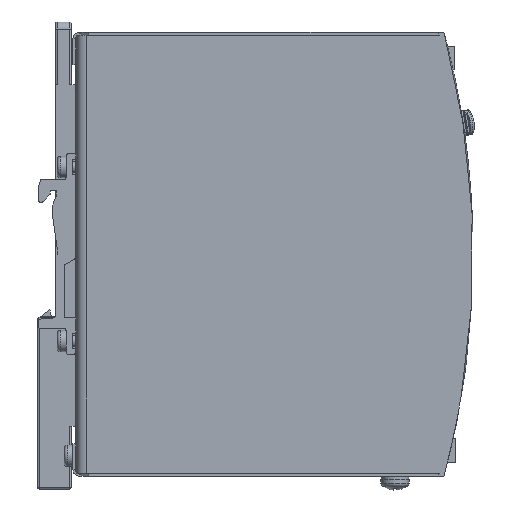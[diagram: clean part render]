
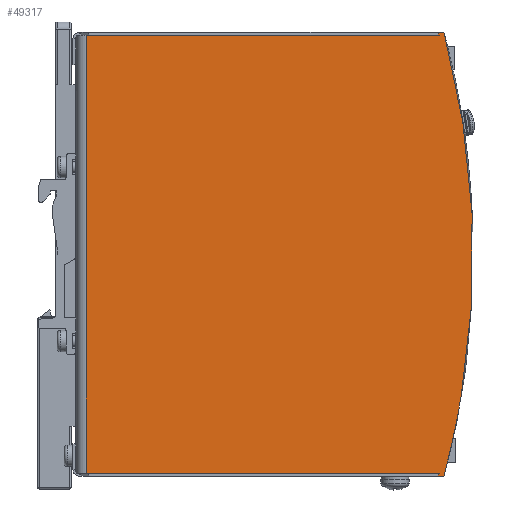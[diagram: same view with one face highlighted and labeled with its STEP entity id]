
A CAD part, front view. The second image highlights one B-rep face of the part: STEP entity #49317.
In plain terms, the highlighted planar face has unit normal (0, -1, 0).
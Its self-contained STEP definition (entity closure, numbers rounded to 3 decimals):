
#865=FACE_BOUND('',#8371,.T.);
#866=FACE_BOUND('',#8372,.T.);
#3120=PLANE('',#52205);
#5380=FACE_OUTER_BOUND('',#8370,.T.);
#8370=EDGE_LOOP('',(#44137,#44138,#44139,#44140,#44141,#44142,#44143,#44144,
#44145,#44146,#44147,#44148));
#8371=EDGE_LOOP('',(#44149,#44150));
#8372=EDGE_LOOP('',(#44151,#44152));
#8645=CIRCLE('',#49520,241.025);
#8808=CIRCLE('',#49823,241.);
#9023=CIRCLE('',#50668,1.);
#9026=CIRCLE('',#50673,1.);
#9463=LINE('',#66803,#15040);
#10020=LINE('',#73073,#15597);
#10590=LINE('',#74216,#16167);
#11953=LINE('',#77405,#17530);
#14158=LINE('',#81825,#19735);
#14726=LINE('',#83478,#20303);
#14727=LINE('',#83480,#20304);
#14728=LINE('',#83481,#20305);
#14729=LINE('',#83484,#20306);
#14730=LINE('',#83487,#20307);
#15040=VECTOR('',#52863,10.);
#15597=VECTOR('',#54392,10.);
#16167=VECTOR('',#54970,10.);
#17530=VECTOR('',#57299,10.);
#19735=VECTOR('',#61728,10.);
#20303=VECTOR('',#63256,10.);
#20304=VECTOR('',#63257,10.);
#20305=VECTOR('',#63258,10.);
#20306=VECTOR('',#63259,10.);
#20307=VECTOR('',#63260,10.);
#20519=VERTEX_POINT('',#64044);
#20520=VERTEX_POINT('',#64046);
#20858=VERTEX_POINT('',#66802);
#21107=VERTEX_POINT('',#69888);
#21362=VERTEX_POINT('',#73072);
#21931=VERTEX_POINT('',#74214);
#23100=VERTEX_POINT('',#77404);
#23156=VERTEX_POINT('',#77620);
#23158=VERTEX_POINT('',#77623);
#23160=VERTEX_POINT('',#77631);
#24728=VERTEX_POINT('',#83477);
#24729=VERTEX_POINT('',#83479);
#24730=VERTEX_POINT('',#83482);
#24731=VERTEX_POINT('',#83483);
#24732=VERTEX_POINT('',#83485);
#24733=VERTEX_POINT('',#83486);
#24979=EDGE_CURVE('',#20519,#20520,#8645,.T.);
#25320=EDGE_CURVE('',#20858,#20520,#9463,.T.);
#25740=EDGE_CURVE('',#20858,#21107,#8808,.T.);
#26228=EDGE_CURVE('',#21362,#21107,#10020,.T.);
#26800=EDGE_CURVE('',#21931,#20519,#10590,.T.);
#28302=EDGE_CURVE('',#23100,#21362,#11953,.T.);
#28413=EDGE_CURVE('',#23156,#23158,#9023,.T.);
#28420=EDGE_CURVE('',#23100,#23160,#9026,.T.);
#30517=EDGE_CURVE('',#23158,#21931,#14158,.T.);
#31305=EDGE_CURVE('',#23156,#24728,#14726,.T.);
#31306=EDGE_CURVE('',#24729,#24728,#14727,.T.);
#31307=EDGE_CURVE('',#24729,#23160,#14728,.T.);
#31308=EDGE_CURVE('',#24730,#24731,#14729,.T.);
#31309=EDGE_CURVE('',#24732,#24733,#14730,.T.);
#44137=ORIENTED_EDGE('',*,*,#26228,.T.);
#44138=ORIENTED_EDGE('',*,*,#25740,.F.);
#44139=ORIENTED_EDGE('',*,*,#25320,.T.);
#44140=ORIENTED_EDGE('',*,*,#24979,.F.);
#44141=ORIENTED_EDGE('',*,*,#26800,.F.);
#44142=ORIENTED_EDGE('',*,*,#30517,.F.);
#44143=ORIENTED_EDGE('',*,*,#28413,.F.);
#44144=ORIENTED_EDGE('',*,*,#31305,.T.);
#44145=ORIENTED_EDGE('',*,*,#31306,.F.);
#44146=ORIENTED_EDGE('',*,*,#31307,.T.);
#44147=ORIENTED_EDGE('',*,*,#28420,.F.);
#44148=ORIENTED_EDGE('',*,*,#28302,.T.);
#44149=ORIENTED_EDGE('',*,*,#31308,.F.);
#44150=ORIENTED_EDGE('',*,*,#31308,.T.);
#44151=ORIENTED_EDGE('',*,*,#31309,.F.);
#44152=ORIENTED_EDGE('',*,*,#31309,.T.);
#49317=ADVANCED_FACE('',(#5380,#865,#866),#3120,.T.);
#49520=AXIS2_PLACEMENT_3D('',#64047,#52518,#52519);
#49823=AXIS2_PLACEMENT_3D('',#69889,#53487,#53488);
#50668=AXIS2_PLACEMENT_3D('',#77624,#57514,#57515);
#50673=AXIS2_PLACEMENT_3D('',#77635,#57528,#57529);
#52205=AXIS2_PLACEMENT_3D('',#83476,#63254,#63255);
#52518=DIRECTION('center_axis',(0.,1.,0.));
#52519=DIRECTION('ref_axis',(0.967,0.,0.254));
#52863=DIRECTION('',(0.986,0.,-0.165));
#53487=DIRECTION('center_axis',(0.,1.,0.));
#53488=DIRECTION('ref_axis',(0.966,0.,0.257));
#54392=DIRECTION('',(1.,0.,0.));
#54970=DIRECTION('',(1.,0.,0.));
#57299=DIRECTION('',(0.,0.,-1.));
#57514=DIRECTION('center_axis',(0.,-1.,0.));
#57515=DIRECTION('ref_axis',(0.968,0.,0.252));
#57528=DIRECTION('center_axis',(0.,-1.,0.));
#57529=DIRECTION('ref_axis',(0.,0.,
-1.));
#61728=DIRECTION('',(0.,0.,1.));
#63254=DIRECTION('center_axis',(0.,-1.,0.));
#63255=DIRECTION('ref_axis',(1.,0.,0.));
#63256=DIRECTION('',(-1.,0.,0.));
#63257=DIRECTION('',(0.,0.,1.));
#63258=DIRECTION('',(1.,0.,0.));
#63259=DIRECTION('',(0.968,0.,-0.252));
#63260=DIRECTION('',(0.968,0.,0.252));
#64044=CARTESIAN_POINT('',(101.414,-21.,123.15));
#64046=CARTESIAN_POINT('',(106.213,-21.,21.329));
#64047=CARTESIAN_POINT('Origin',(-131.5,-21.,61.15));
#66802=CARTESIAN_POINT('',(106.188,-21.,21.333));
#66803=CARTESIAN_POINT('',(106.188,-21.,21.333));
#69888=CARTESIAN_POINT('',(101.388,-21.,-0.85));
#69889=CARTESIAN_POINT('Origin',(-131.5,-21.,61.15));
#73072=CARTESIAN_POINT('',(99.781,-21.,-0.85));
#73073=CARTESIAN_POINT('',(163.152,-21.,-0.85));
#74214=CARTESIAN_POINT('',(99.781,-21.,123.15));
#74216=CARTESIAN_POINT('',(101.13,-21.,123.15));
#77404=CARTESIAN_POINT('',(99.781,-21.,-0.1));
#77405=CARTESIAN_POINT('',(99.781,-21.,89.9));
#77620=CARTESIAN_POINT('',(100.217,-21.,122.3));
#77623=CARTESIAN_POINT('',(99.781,-21.,122.4));
#77624=CARTESIAN_POINT('Origin',(99.781,-21.,121.4));
#77631=CARTESIAN_POINT('',(100.217,-21.,0.));
#77635=CARTESIAN_POINT('Origin',(99.781,-21.,0.9));
#81825=CARTESIAN_POINT('',(99.781,-21.,89.9));
#83476=CARTESIAN_POINT('Origin',(-1.5,-21.,122.3));
#83477=CARTESIAN_POINT('',(1.5,-21.,122.3));
#83478=CARTESIAN_POINT('',(128.5,-21.,122.3));
#83479=CARTESIAN_POINT('',(1.5,-21.,0.));
#83480=CARTESIAN_POINT('',(1.5,-21.,122.3));
#83481=CARTESIAN_POINT('',(128.5,-21.,0.));
#83482=CARTESIAN_POINT('',(100.749,-21.,0.648));
#83483=CARTESIAN_POINT('',(101.475,-21.,0.459));
#83484=CARTESIAN_POINT('',(-77.82,-21.,47.166));
#83485=CARTESIAN_POINT('',(100.749,-21.,121.652));
#83486=CARTESIAN_POINT('',(101.475,-21.,121.841));
#83487=CARTESIAN_POINT('',(-63.793,-21.,78.788));
